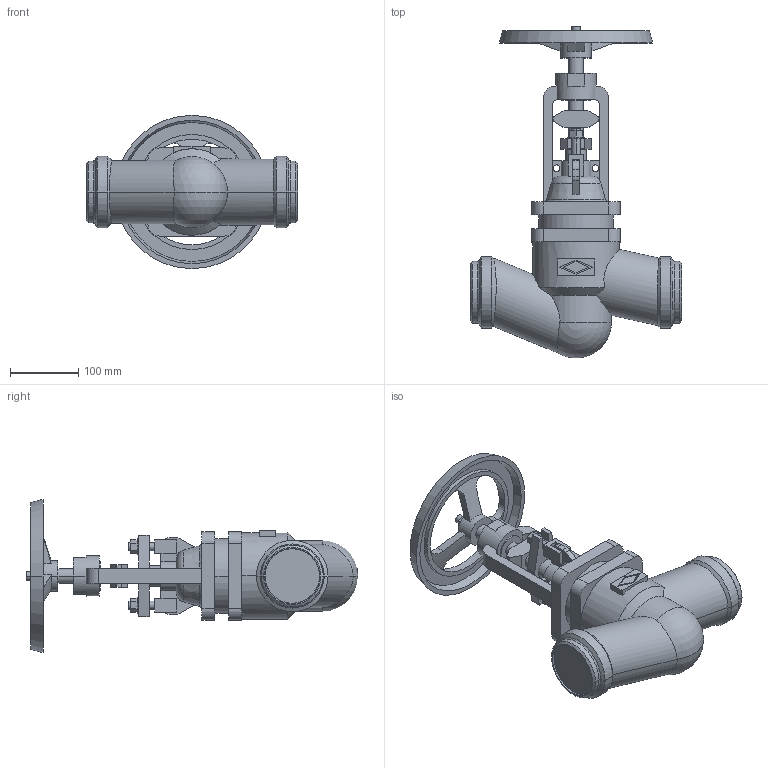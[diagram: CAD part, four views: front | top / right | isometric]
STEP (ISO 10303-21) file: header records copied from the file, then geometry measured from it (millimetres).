
FILE_DESCRIPTION(('OneSpaceDesigner STEP Export'),'2;1');
FILE_NAME('c000004332.stp','2010-05-06T10:57:25',(''),(''),'OneSpace Designer STEP processor for AP214 (Solid Model)','OneSpace Modeling 15.50B 03-Nov-2007 (C) CoCreate Software GmbH','');
FILE_SCHEMA(('AUTOMOTIVE_DESIGN { 1 0 10303 214 1 1 1 1 }'));
Length unit declared in the file: millimetre
Products named in the file (1): 1
Bounding box: 310 x 487.35 x 225 mm (x, y, z)
Volume: 4895469.3 mm3; surface area: 360361.1 mm2
Topology: 1 solids, 1 shells, 286 faces, 740 edges, 477 vertices
Faces by surface type: plane 151, cylinder 85, cone 34, torus 14, sphere 2
Entity records: 11434 total; most frequent: CARTESIAN_POINT 2512, ORIENTED_EDGE 1476, DIRECTION 1240, EDGE_CURVE 738, VERTEX_POINT 477, VECTOR 420, LINE 420, AXIS2_PLACEMENT_3D 410
